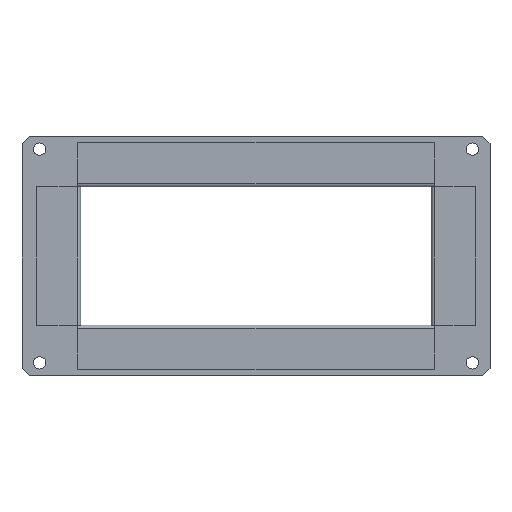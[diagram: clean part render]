
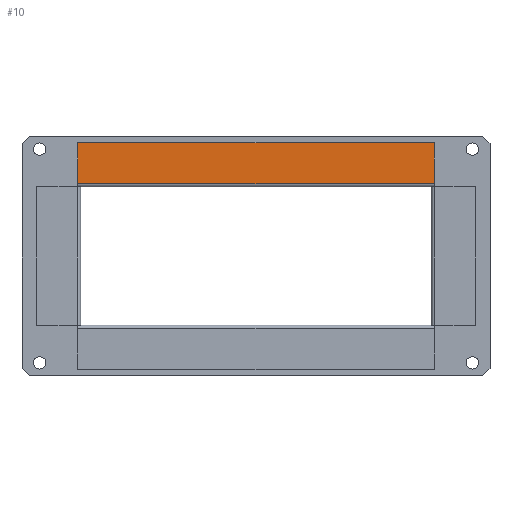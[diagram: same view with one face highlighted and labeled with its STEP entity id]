
A CAD part, top view. The second image highlights one B-rep face of the part: STEP entity #10.
In plain terms, the highlighted planar face has unit normal (0, 0, 1) as drawn and (0, 0, -1) by its records, which use the part's own axes.
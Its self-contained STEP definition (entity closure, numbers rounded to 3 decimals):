
#10 = ADVANCED_FACE ( 'NONE', ( #1355 ), #4675, .T. ) ;
#336 = DIRECTION ( 'NONE',  ( -1., 0., 0. ) ) ;
#640 = VECTOR ( 'NONE', #336, 1000. ) ;
#948 = VECTOR ( 'NONE', #4067, 1000. ) ;
#957 = LINE ( 'NONE', #1348, #640 ) ;
#1096 = ORIENTED_EDGE ( 'NONE', *, *, #4749, .T. ) ;
#1110 = VECTOR ( 'NONE', #2180, 1000. ) ;
#1303 = CARTESIAN_POINT ( 'NONE',  ( 100.8, 1.8, 0. ) ) ;
#1348 = CARTESIAN_POINT ( 'NONE',  ( 100.8, 25., 0. ) ) ;
#1355 = FACE_OUTER_BOUND ( 'NONE', #5711, .T. ) ;
#1410 = ORIENTED_EDGE ( 'NONE', *, *, #3535, .F. ) ;
#1639 = CARTESIAN_POINT ( 'NONE',  ( 100.8, 1.8, 0. ) ) ;
#1656 = AXIS2_PLACEMENT_3D ( 'NONE', #4608, #5685, #5306 ) ;
#1733 = CARTESIAN_POINT ( 'NONE',  ( 100.8, 0., 0. ) ) ;
#1884 = VERTEX_POINT ( 'NONE', #5565 ) ;
#2060 = CARTESIAN_POINT ( 'NONE',  ( -100.8, 25., 0. ) ) ;
#2180 = DIRECTION ( 'NONE',  ( 0., -1., 0. ) ) ;
#2355 = CARTESIAN_POINT ( 'NONE',  ( -100.8, 1.8, 0. ) ) ;
#2689 = DIRECTION ( 'NONE',  ( 0., -1., 0. ) ) ;
#3084 = VERTEX_POINT ( 'NONE', #2355 ) ;
#3459 = EDGE_CURVE ( 'NONE', #6249, #3084, #4890, .T. ) ;
#3535 = EDGE_CURVE ( 'NONE', #1884, #6249, #957, .T. ) ;
#3775 = ORIENTED_EDGE ( 'NONE', *, *, #3987, .T. ) ;
#3987 = EDGE_CURVE ( 'NONE', #4823, #3084, #6038, .T. ) ;
#4067 = DIRECTION ( 'NONE',  ( -1., 0., 0. ) ) ;
#4608 = CARTESIAN_POINT ( 'NONE',  ( 100.8, 0., 0. ) ) ;
#4675 = PLANE ( 'NONE',  #1656 ) ;
#4749 = EDGE_CURVE ( 'NONE', #1884, #4823, #4758, .T. ) ;
#4758 = LINE ( 'NONE', #1733, #6070 ) ;
#4823 = VERTEX_POINT ( 'NONE', #1303 ) ;
#4890 = LINE ( 'NONE', #6147, #1110 ) ;
#5306 = DIRECTION ( 'NONE',  ( -1., 0., 0. ) ) ;
#5565 = CARTESIAN_POINT ( 'NONE',  ( 100.8, 25., 0. ) ) ;
#5685 = DIRECTION ( 'NONE',  ( 0., 0., -1. ) ) ;
#5711 = EDGE_LOOP ( 'NONE', ( #6189, #1410, #1096, #3775 ) ) ;
#6038 = LINE ( 'NONE', #1639, #948 ) ;
#6070 = VECTOR ( 'NONE', #2689, 1000. ) ;
#6147 = CARTESIAN_POINT ( 'NONE',  ( -100.8, 0., 0. ) ) ;
#6189 = ORIENTED_EDGE ( 'NONE', *, *, #3459, .F. ) ;
#6249 = VERTEX_POINT ( 'NONE', #2060 ) ;
